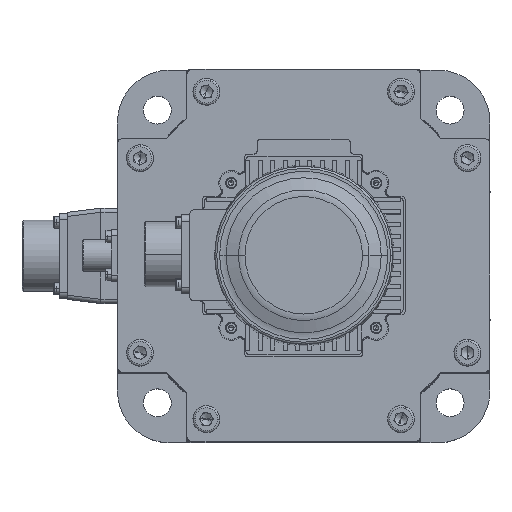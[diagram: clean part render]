
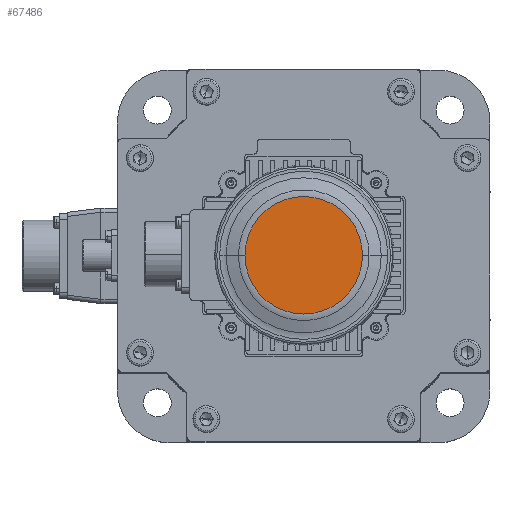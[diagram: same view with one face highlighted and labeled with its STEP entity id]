
A CAD part, top view. The second image highlights one B-rep face of the part: STEP entity #67486.
In plain terms, the highlighted planar face has unit normal (0, 0, 1) as drawn and (0, 0, -1) by its records, which use the part's own axes.
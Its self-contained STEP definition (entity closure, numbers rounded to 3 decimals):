
#4870 = PLANE ( 'NONE',  #53609 ) ;
#6326 = VERTEX_POINT ( 'NONE', #32541 ) ;
#9523 = FACE_OUTER_BOUND ( 'NONE', #84257, .T. ) ;
#11117 = VERTEX_POINT ( 'NONE', #57335 ) ;
#24312 = CARTESIAN_POINT ( 'NONE',  ( 0., 0., 48.762 ) ) ;
#24766 = EDGE_CURVE ( 'NONE', #11117, #6326, #46316, .T. ) ;
#28488 = AXIS2_PLACEMENT_3D ( 'NONE', #32008, #78882, #38751 ) ;
#29851 = DIRECTION ( 'NONE',  ( 1., 0., 0. ) ) ;
#31084 = DIRECTION ( 'NONE',  ( 1., 0., 0. ) ) ;
#32008 = CARTESIAN_POINT ( 'NONE',  ( 0., 0., 48.762 ) ) ;
#32541 = CARTESIAN_POINT ( 'NONE',  ( 28.377, 0., 48.762 ) ) ;
#35104 = EDGE_CURVE ( 'NONE', #6326, #11117, #54516, .T. ) ;
#38751 = DIRECTION ( 'NONE',  ( 1., 0., 0. ) ) ;
#46316 = CIRCLE ( 'NONE', #28488, 28.377 ) ;
#51233 = ORIENTED_EDGE ( 'NONE', *, *, #35104, .F. ) ;
#53609 = AXIS2_PLACEMENT_3D ( 'NONE', #78747, #69996, #29851 ) ;
#54516 = CIRCLE ( 'NONE', #74722, 28.377 ) ;
#57335 = CARTESIAN_POINT ( 'NONE',  ( -28.377, 0., 48.762 ) ) ;
#67486 = ADVANCED_FACE ( 'NONE', ( #9523 ), #4870, .F. ) ;
#69996 = DIRECTION ( 'NONE',  ( 0., 0., 1. ) ) ;
#71211 = DIRECTION ( 'NONE',  ( 0., 0., 1. ) ) ;
#74722 = AXIS2_PLACEMENT_3D ( 'NONE', #24312, #71211, #31084 ) ;
#78747 = CARTESIAN_POINT ( 'NONE',  ( 0., 28.377, 48.762 ) ) ;
#78882 = DIRECTION ( 'NONE',  ( 0., 0., 1. ) ) ;
#82080 = ORIENTED_EDGE ( 'NONE', *, *, #24766, .F. ) ;
#84257 = EDGE_LOOP ( 'NONE', ( #51233, #82080 ) ) ;
